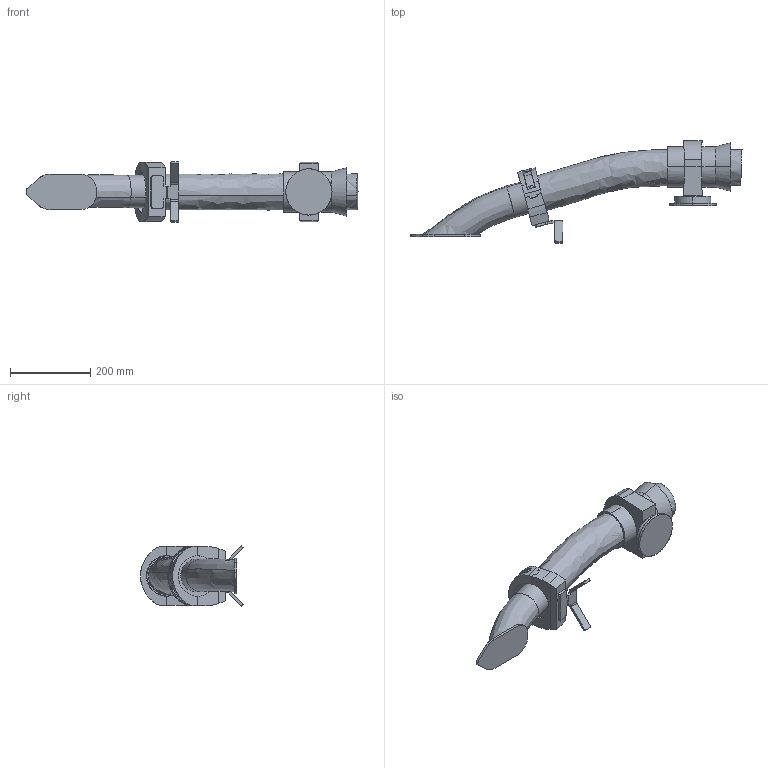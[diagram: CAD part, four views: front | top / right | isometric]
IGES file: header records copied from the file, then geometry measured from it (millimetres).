
Start section: SolidWorks IGES file using analytic representation for surfaces
Global section: file name: C:\Users\SEALDUN\OneDrive - ABB\Documents\R&D Robotics\Work Items\WI 632927\IGES\IRB5710-LID-MH_90kg-230_OC_02_IGES_J\IRB5710-LID_90kg-230_OmniCore_rev00_LINK04_CABLE.igs; native system: SolidWorks 2024; preprocessor: SolidWorks 2024; author: SEALDUN; date: 250707.154204; units: millimetre
Bounding box: 825.65 x 255.8 x 150.86 mm (x, y, z)
Surface area: 441838.4 mm2 (no closed solid volume)
Topology: 0 solids, 0 shells, 294 faces, 5174 edges, 5174 vertices
Faces by surface type: bspline 185, revolution 109
